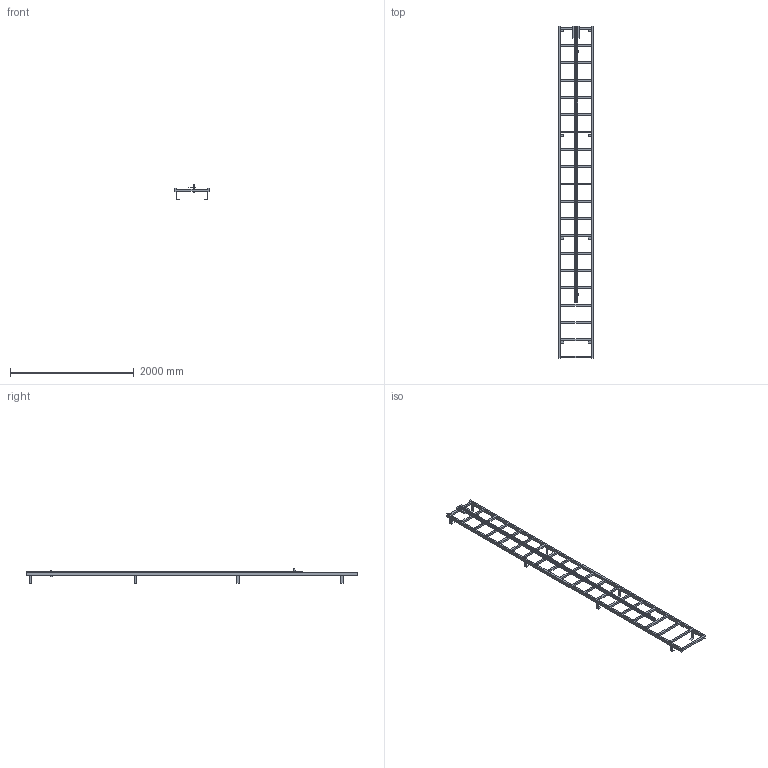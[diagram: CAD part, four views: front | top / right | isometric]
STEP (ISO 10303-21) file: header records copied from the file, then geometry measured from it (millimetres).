
FILE_DESCRIPTION((''),'2;1');
FILE_NAME('52330217','2024-12-05T09:14:39',('wep'),('HUBER SE'),'CREO PARAMETRIC BY PTC INC, 2022162','CREO PARAMETRIC BY PTC INC, 2022162','');
FILE_SCHEMA(('AUTOMOTIVE_DESIGN { 1 0 10303 214 1 1 1 1 }'));
Length unit declared in the file: millimetre
Products named in the file (1): 52330217
Bounding box: 550 x 5370 x 239 mm (x, y, z)
Volume: 25070472 mm3; surface area: 4268956.1 mm2
Topology: 2 solids, 2 shells, 332 faces, 966 edges, 634 vertices
Faces by surface type: plane 332
Entity records: 11469 total; most frequent: CARTESIAN_POINT 1934, ORIENTED_EDGE 1932, DIRECTION 1630, VECTOR 966, LINE 966, EDGE_CURVE 966, VERTEX_POINT 634, EDGE_LOOP 434
